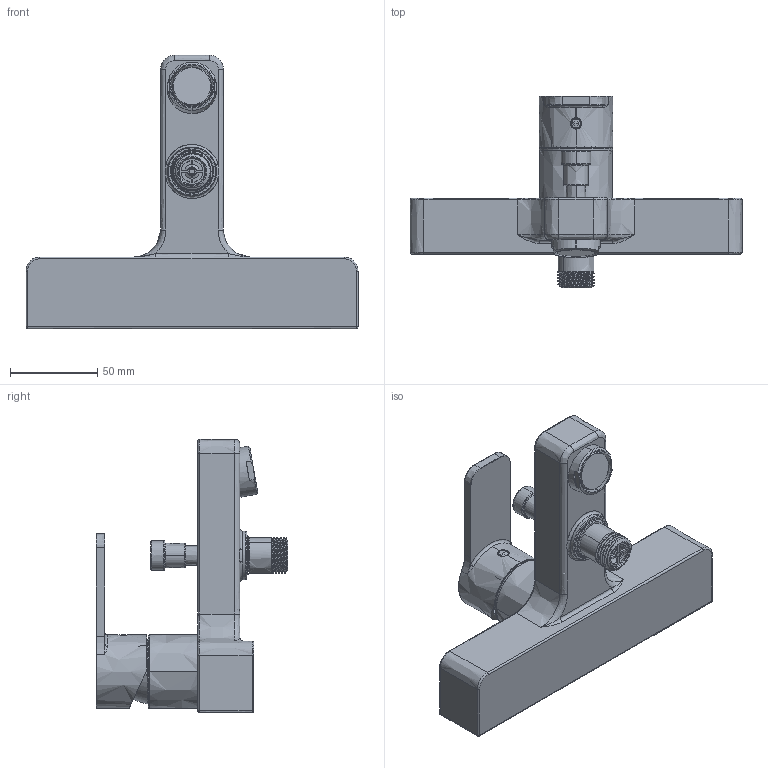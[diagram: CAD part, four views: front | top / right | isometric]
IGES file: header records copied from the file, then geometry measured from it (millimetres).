
Start section:  PTC IGES file: prt0001.igs
Global section: file name: prt0001.igs; native system: Pro/ENGINEER by Parametric Technology Corporation; preprocessor: 2010040; author: atrabaldo; organization: Unknown; date: 20140313.100152; units: millimetre
Bounding box: 190 x 109.6 x 156.5 mm (x, y, z)
Surface area: 134465.6 mm2 (no closed solid volume)
Topology: 0 solids, 0 shells, 892 faces, 4717 edges, 4717 vertices
Faces by surface type: bspline 892
